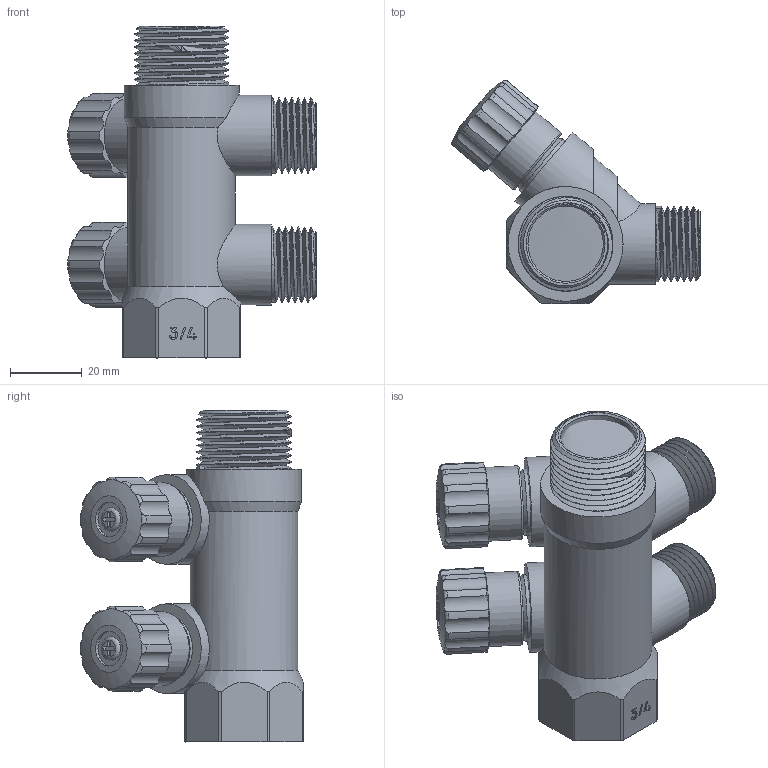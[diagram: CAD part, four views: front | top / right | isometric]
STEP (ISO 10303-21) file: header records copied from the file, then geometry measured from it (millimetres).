
FILE_DESCRIPTION(/* description */ (''),/* implementation_level */ '2;1');
FILE_NAME(/* name */ 'H:\Мишенин_3D\Исходные файлы 3D\VTc.560.N.0502.stp',/* time_stamp */ '2019-07-24T16:23:07+03:00',/* author */ ('misheninal'),/* organization */ (''),/* preprocessor_version */ 'ST-DEVELOPER v18',/* originating_system */ 'Autodesk Inventor 2020',/* authorisation */ '');
FILE_SCHEMA (('AUTOMOTIVE_DESIGN { 1 0 10303 214 3 1 1 }'));
Length unit declared in the file: millimetre
Products named in the file (1): VT.580_3%4_1%2-4
Bounding box: 69.21 x 62.26 x 92.5 mm (x, y, z)
Volume: 59813.2 mm3; surface area: 33037.3 mm2
Topology: 1 solids, 1 shells, 365 faces, 1030 edges, 691 vertices
Faces by surface type: cylinder 156, plane 105, bspline 52, torus 29, cone 23
Full cylindrical faces by diameter (mm): 9.679 x2, 10.5 x2, 15.1 x2, 16.1 x2, 17.4 x12, 18.621 x2, 20.621 x2, 21 x11, 22.5 x2, 22.8 x9, 24.2 x3, 25 x2, 26.4 x9, 27.5 x2, 27.8 x7, 30 x1, 32 x1
Entity records: 20986 total; most frequent: CARTESIAN_POINT 12084, ORIENTED_EDGE 2060, DIRECTION 1567, EDGE_CURVE 1030, VERTEX_POINT 691, AXIS2_PLACEMENT_3D 588, EDGE_LOOP 395, LINE 391
